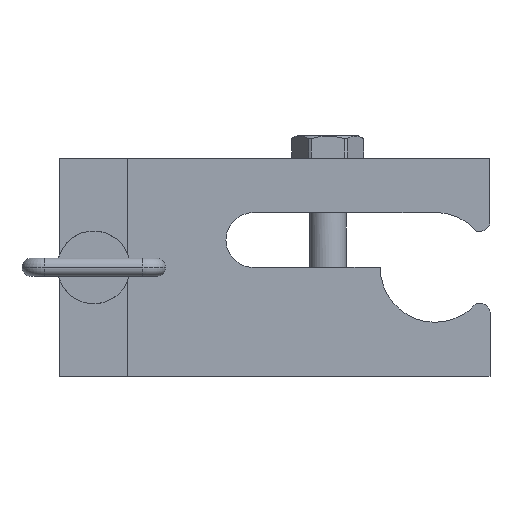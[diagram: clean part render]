
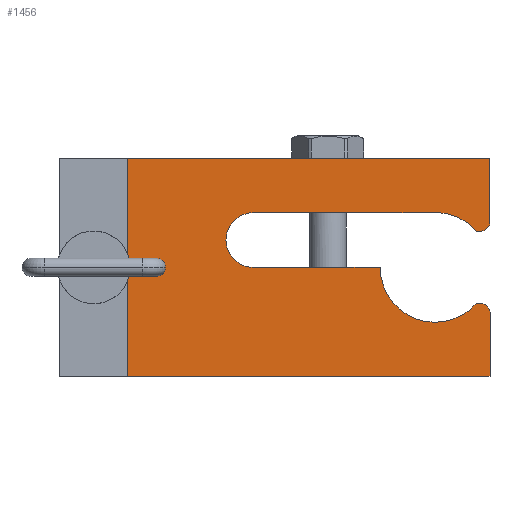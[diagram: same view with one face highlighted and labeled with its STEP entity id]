
A CAD part, left-side view. The second image highlights one B-rep face of the part: STEP entity #1456.
In plain terms, the highlighted planar face has unit normal (-1, 0, 0) as drawn and (0, 0, 1) by its records, which use the part's own axes.
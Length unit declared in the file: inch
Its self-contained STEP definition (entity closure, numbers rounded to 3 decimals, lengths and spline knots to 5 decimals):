
#838=CARTESIAN_POINT('',(-0.00004,1.25,0.5));
#839=VERTEX_POINT('',#838);
#846=CARTESIAN_POINT('',(-0.00004,0.3775,0.5));
#847=VERTEX_POINT('',#846);
#848=CARTESIAN_POINT('',(-0.00004,1.25,0.5));
#849=DIRECTION('',(0.0,-1.0,0.0));
#850=VECTOR('',#849,0.8725);
#851=LINE('',#848,#850);
#852=EDGE_CURVE('',#839,#847,#851,.T.);
#881=CARTESIAN_POINT('',(-0.75,-0.3775,0.5));
#882=VERTEX_POINT('',#881);
#889=CARTESIAN_POINT('',(-0.75,2.112,0.5));
#890=VERTEX_POINT('',#889);
#891=CARTESIAN_POINT('',(-0.75,-0.3775,0.5));
#892=DIRECTION('',(0.0,1.0,0.0));
#893=VECTOR('',#892,2.4895);
#894=LINE('',#891,#893);
#895=EDGE_CURVE('',#882,#890,#894,.T.);
#1124=CARTESIAN_POINT('',(-0.25,-0.28285,0.5));
#1125=VERTEX_POINT('',#1124);
#1132=CARTESIAN_POINT('',(-0.25,-0.3175,0.5));
#1133=VERTEX_POINT('',#1132);
#1134=CARTESIAN_POINT('',(-0.25,-0.28285,0.5));
#1135=DIRECTION('',(0.0,-1.0,0.0));
#1136=VECTOR('',#1135,0.03465);
#1137=LINE('',#1134,#1136);
#1138=EDGE_CURVE('',#1125,#1133,#1137,.T.);
#1156=CARTESIAN_POINT('',(0.0,0.0,0.5));
#1157=DIRECTION('',(0.0,0.0,1.0));
#1158=DIRECTION('',(0.0,-1.0,0.0));
#1159=AXIS2_PLACEMENT_3D('',#1156,#1157,#1158);
#1160=CIRCLE('',#1159,0.3775);
#1161=EDGE_CURVE('',#847,#1125,#1160,.T.);
#1173=CARTESIAN_POINT('',(0.37596,1.25,0.5));
#1174=VERTEX_POINT('',#1173);
#1181=CARTESIAN_POINT('',(0.18796,1.25,0.5));
#1182=DIRECTION('',(0.0,0.0,1.0));
#1183=DIRECTION('',(-1.0,0.0,0.0));
#1184=AXIS2_PLACEMENT_3D('',#1181,#1182,#1183);
#1185=CIRCLE('',#1184,0.188);
#1186=EDGE_CURVE('',#1174,#839,#1185,.T.);
#1198=CARTESIAN_POINT('',(0.37596,0.03406,0.5));
#1199=VERTEX_POINT('',#1198);
#1206=CARTESIAN_POINT('',(0.37596,0.03406,0.5));
#1207=DIRECTION('',(0.0,1.0,0.0));
#1208=VECTOR('',#1207,1.21594);
#1209=LINE('',#1206,#1208);
#1210=EDGE_CURVE('',#1199,#1174,#1209,.T.);
#1225=CARTESIAN_POINT('',(0.25,-0.28285,0.5));
#1226=VERTEX_POINT('',#1225);
#1233=CARTESIAN_POINT('',(0.0,0.0,0.5));
#1234=DIRECTION('',(0.0,0.0,1.0));
#1235=DIRECTION('',(-0.662,0.749,0.0));
#1236=AXIS2_PLACEMENT_3D('',#1233,#1234,#1235);
#1237=CIRCLE('',#1236,0.3775);
#1238=EDGE_CURVE('',#1226,#1199,#1237,.T.);
#1250=CARTESIAN_POINT('',(0.25,-0.3175,0.5));
#1251=VERTEX_POINT('',#1250);
#1258=CARTESIAN_POINT('',(0.25,-0.3175,0.5));
#1259=DIRECTION('',(0.0,1.0,0.0));
#1260=VECTOR('',#1259,0.03465);
#1261=LINE('',#1258,#1260);
#1262=EDGE_CURVE('',#1251,#1226,#1261,.T.);
#1299=CARTESIAN_POINT('',(-0.31,-0.3775,0.5));
#1300=VERTEX_POINT('',#1299);
#1301=CARTESIAN_POINT('',(-0.31,-0.3175,0.5));
#1302=DIRECTION('',(0.0,0.0,-1.0));
#1303=DIRECTION('',(0.0,-1.0,0.0));
#1304=AXIS2_PLACEMENT_3D('',#1301,#1302,#1303);
#1305=CIRCLE('',#1304,0.06);
#1306=EDGE_CURVE('',#1133,#1300,#1305,.T.);
#1324=CARTESIAN_POINT('',(-0.31,-0.3775,0.5));
#1325=DIRECTION('',(-1.0,0.0,0.0));
#1326=VECTOR('',#1325,0.44);
#1327=LINE('',#1324,#1326);
#1328=EDGE_CURVE('',#1300,#882,#1327,.T.);
#1339=CARTESIAN_POINT('',(0.75,2.112,0.5));
#1340=VERTEX_POINT('',#1339);
#1341=CARTESIAN_POINT('',(-0.75,2.112,0.5));
#1342=DIRECTION('',(1.0,0.0,0.0));
#1343=VECTOR('',#1342,1.5);
#1344=LINE('',#1341,#1343);
#1345=EDGE_CURVE('',#890,#1340,#1344,.T.);
#1372=CARTESIAN_POINT('',(0.75,-0.3775,0.5));
#1373=VERTEX_POINT('',#1372);
#1374=CARTESIAN_POINT('',(0.75,2.112,0.5));
#1375=DIRECTION('',(0.0,-1.0,0.0));
#1376=VECTOR('',#1375,2.4895);
#1377=LINE('',#1374,#1376);
#1378=EDGE_CURVE('',#1340,#1373,#1377,.T.);
#1400=CARTESIAN_POINT('',(0.31,-0.3775,0.5));
#1401=VERTEX_POINT('',#1400);
#1402=CARTESIAN_POINT('',(0.75,-0.3775,0.5));
#1403=DIRECTION('',(-1.0,0.0,0.0));
#1404=VECTOR('',#1403,0.44);
#1405=LINE('',#1402,#1404);
#1406=EDGE_CURVE('',#1373,#1401,#1405,.T.);
#1424=CARTESIAN_POINT('',(0.31,-0.3175,0.5));
#1425=DIRECTION('',(0.0,0.0,-1.0));
#1426=DIRECTION('',(-1.0,0.0,0.0));
#1427=AXIS2_PLACEMENT_3D('',#1424,#1425,#1426);
#1428=CIRCLE('',#1427,0.06);
#1429=EDGE_CURVE('',#1401,#1251,#1428,.T.);
#1435=CARTESIAN_POINT('',(0.039,0.81306,0.5));
#1436=DIRECTION('',(0.0,0.0,1.0));
#1437=DIRECTION('',(1.0,0.0,0.0));
#1438=AXIS2_PLACEMENT_3D('',#1435,#1436,#1437);
#1439=PLANE('',#1438);
#1440=ORIENTED_EDGE('',*,*,#1161,.F.);
#1441=ORIENTED_EDGE('',*,*,#852,.F.);
#1442=ORIENTED_EDGE('',*,*,#1186,.F.);
#1443=ORIENTED_EDGE('',*,*,#1210,.F.);
#1444=ORIENTED_EDGE('',*,*,#1238,.F.);
#1445=ORIENTED_EDGE('',*,*,#1262,.F.);
#1446=ORIENTED_EDGE('',*,*,#1429,.F.);
#1447=ORIENTED_EDGE('',*,*,#1406,.F.);
#1448=ORIENTED_EDGE('',*,*,#1378,.F.);
#1449=ORIENTED_EDGE('',*,*,#1345,.F.);
#1450=ORIENTED_EDGE('',*,*,#895,.F.);
#1451=ORIENTED_EDGE('',*,*,#1328,.F.);
#1452=ORIENTED_EDGE('',*,*,#1306,.F.);
#1453=ORIENTED_EDGE('',*,*,#1138,.F.);
#1454=EDGE_LOOP('',(#1440,#1441,#1442,#1443,#1444,#1445,#1446,#1447,#1448,#1449,#1450,#1451,#1452,#1453));
#1455=FACE_OUTER_BOUND('',#1454,.T.);
#1456=ADVANCED_FACE('',(#1455),#1439,.T.);
